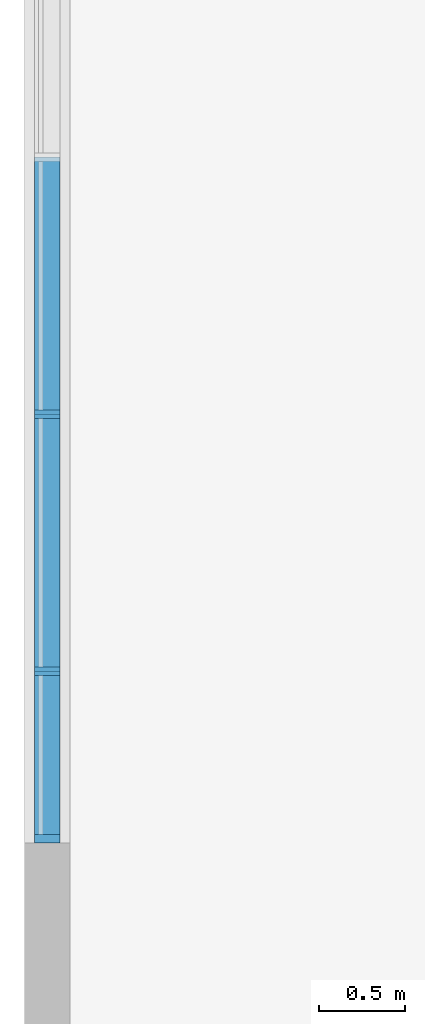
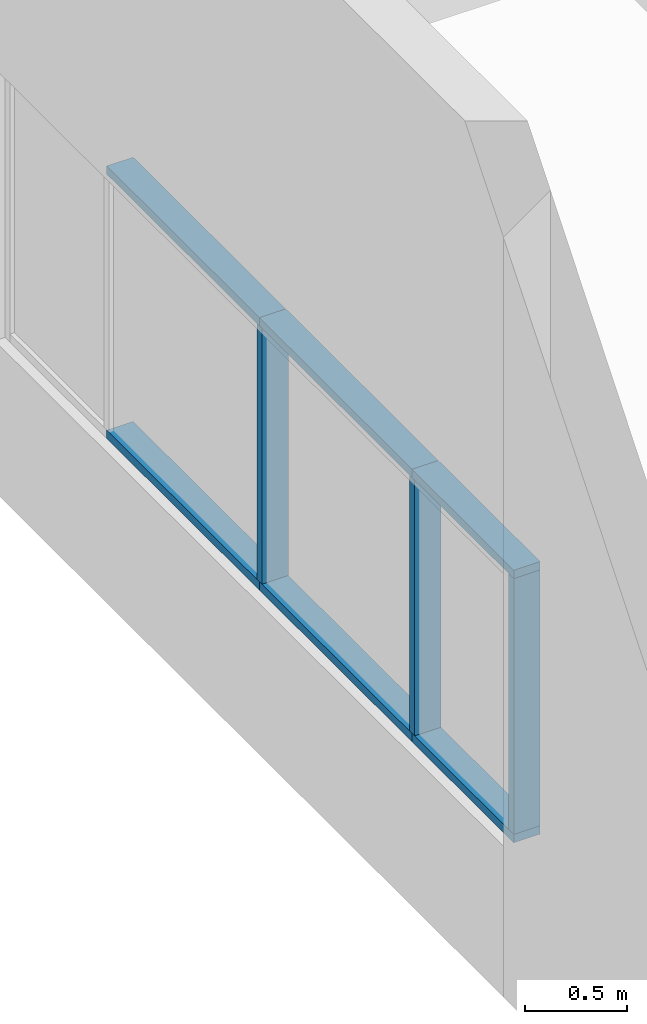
# One storey, part 2 of 87: 9 members, 1 element without a shape of its own.
"""IFC2X3 building model written with IfcOpenShell, lengths in metres."""

from ifc_helpers import new_model, entity, si_unit, converted_unit, frame, origin, origin_2d_with_axis, place, context, project, spatial, rectangle, extrude, source, transform, mapped, material, type_object, type_shapes, element, aggregate, save


model = new_model("IFC2X3")

# Units and contexts
model_context = context("Model", 3, precision=1e-09, world=origin())
plan_context = context("Plan", 3, precision=1e-09, world=origin())
ifc_project = project(units=[si_unit("LENGTHUNIT", "METRE"), si_unit("AREAUNIT", "SQUARE_METRE"), si_unit("VOLUMEUNIT", "CUBIC_METRE"), converted_unit("PLANEANGLEUNIT", "DEGREE", entity("IfcRatioMeasure", 0.01745329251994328), si_unit("PLANEANGLEUNIT", "RADIAN"), dimensions=[0, 0, 0, 0, 0, 0, 0]), si_unit("TIMEUNIT", "SECOND")], contexts=[model_context, plan_context])

# Site, building, storey
site_placement = place(None, origin())
site = spatial("IfcSite", under=ifc_project, at=site_placement, Name="Default", CompositionType="ELEMENT")
building_placement = place(site_placement, origin())
building = spatial("IfcBuilding", under=site, at=building_placement, CompositionType="ELEMENT")
storey_placement = place(building_placement, origin())
storey = spatial("IfcBuildingStorey", under=building, at=storey_placement, Name="First Floor", CompositionType="ELEMENT", Elevation=-3.531500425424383e-13)

# Curtain wall, members
curtain_wall_placement = place(storey_placement, origin())
curtain_wall = element("IfcCurtainWall", 1, at=curtain_wall_placement, inside=storey, Name="Curtain Wall:Storefront", ObjectType="Curtain Wall:Storefront")
ifc_material = material(Name="Metal - Aluminium")
member_type_1 = type_object("IfcMemberType", Name="50 x 150mm", PredefinedType="MULLION")
shared_shape_1 = source(origin(), model_context, "Body", "SweptSolid", [
    extrude(rectangle(XDim=0.05, YDim=0.15, at=origin_2d_with_axis()), frame((-0.025, 0.0, -1.0), z_axis=(0.0, 0.0, 1.0), x_axis=(-1.0, 0.0, 0.0)), (0.0, 0.0, 1.0), 1.0),
])
type_shapes(member_type_1, [shared_shape_1])
member_1_placement = place(storey_placement, frame((-52.14650000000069, 3.759486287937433, 2.54), z_axis=(0.0, 1.0, 0.0), x_axis=(0.0, 0.0, 1.0)))
member_1 = element("IfcMember", 2, at=member_1_placement, type_object=member_type_1, material=ifc_material, Name="Rectangular Mullion:50 x 150mm:50 x 150mm", ObjectType="50 x 150mm", context=model_context, shape_type="MappedRepresentation", body=[
    mapped(shared_shape_1, transform((0.0, 0.0, 0.0), scale=1.0)),
])
member_type_2 = type_object("IfcMemberType", Name="50 x 150mm", PredefinedType="MULLION")
shared_shape_2 = source(origin(), model_context, "Body", "SweptSolid", [
    extrude(rectangle(XDim=0.05, YDim=0.15, at=origin_2d_with_axis()), frame((-0.025, 0.0, -1.500256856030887), z_axis=(0.0, 0.0, 1.0), x_axis=(-1.0, 0.0, 0.0)), (0.0, 0.0, 1.0), 1.500256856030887),
])
type_shapes(member_type_2, [shared_shape_2])
member_2_placement = place(storey_placement, frame((-52.14650000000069, 5.259743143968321, 2.54), z_axis=(0.0, 1.0, 0.0), x_axis=(0.0, 0.0, 1.0)))
member_2 = element("IfcMember", 3, at=member_2_placement, type_object=member_type_2, material=ifc_material, Name="Rectangular Mullion:50 x 150mm:50 x 150mm", ObjectType="50 x 150mm", context=model_context, shape_type="MappedRepresentation", body=[
    mapped(shared_shape_2, transform((0.0, 0.0, 0.0), scale=1.0)),
])
member_3_placement = place(storey_placement, frame((-52.14650000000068, 6.759999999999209, 2.54), z_axis=(0.0, 1.0, 0.0), x_axis=(0.0, 0.0, 1.0)))
member_3 = element("IfcMember", 4, at=member_3_placement, type_object=member_type_2, material=ifc_material, Name="Rectangular Mullion:50 x 150mm:50 x 150mm", ObjectType="50 x 150mm", context=model_context, shape_type="MappedRepresentation", body=[
    mapped(shared_shape_2, transform((0.0, 0.0, 0.0), scale=1.0)),
])
member_type_3 = type_object("IfcMemberType", Name="50 x 150mm", PredefinedType="MULLION")
shared_shape_3 = source(origin(), model_context, "Body", "SweptSolid", [
    extrude(rectangle(XDim=0.05, YDim=0.15, at=origin_2d_with_axis()), frame((-0.025, 0.0, -1.0), z_axis=(0.0, 0.0, 1.0), x_axis=(-1.0, 0.0, 0.0)), (0.0, 0.0, 1.0), 1.0),
])
type_shapes(member_type_3, [shared_shape_3])
member_4_placement = place(storey_placement, frame((-52.14650000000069, 2.759486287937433, 0.905), z_axis=(0.0, -1.0, 0.0), x_axis=(0.0, 0.0, -1.0)))
member_4 = element("IfcMember", 5, at=member_4_placement, type_object=member_type_3, material=ifc_material, Name="Rectangular Mullion:50 x 150mm:50 x 150mm", ObjectType="50 x 150mm", context=model_context, shape_type="MappedRepresentation", body=[
    mapped(shared_shape_3, transform((0.0, 0.0, 0.0), scale=1.0)),
])
member_type_4 = type_object("IfcMemberType", Name="50 x 150mm", PredefinedType="MULLION")
shared_shape_4 = source(origin(), model_context, "Body", "SweptSolid", [
    extrude(rectangle(XDim=0.05, YDim=0.15, at=origin_2d_with_axis()), frame((-0.025, 0.0, -1.500256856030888), z_axis=(0.0, 0.0, 1.0), x_axis=(-1.0, 0.0, 0.0)), (0.0, 0.0, 1.0), 1.500256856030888),
])
type_shapes(member_type_4, [shared_shape_4])
member_5_placement = place(storey_placement, frame((-52.14650000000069, 3.759486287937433, 0.905), z_axis=(0.0, -1.0, 0.0), x_axis=(0.0, 0.0, -1.0)))
member_5 = element("IfcMember", 6, at=member_5_placement, type_object=member_type_4, material=ifc_material, Name="Rectangular Mullion:50 x 150mm:50 x 150mm", ObjectType="50 x 150mm", context=model_context, shape_type="MappedRepresentation", body=[
    mapped(shared_shape_4, transform((0.0, 0.0, 0.0), scale=1.0)),
])
member_6_placement = place(storey_placement, frame((-52.14650000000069, 5.259743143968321, 0.905), z_axis=(0.0, -1.0, 0.0), x_axis=(0.0, 0.0, -1.0)))
member_6 = element("IfcMember", 7, at=member_6_placement, type_object=member_type_4, material=ifc_material, Name="Rectangular Mullion:50 x 150mm:50 x 150mm", ObjectType="50 x 150mm", context=model_context, shape_type="MappedRepresentation", body=[
    mapped(shared_shape_4, transform((0.0, 0.0, 0.0), scale=1.0)),
])
member_type_5 = type_object("IfcMemberType", Name="50 x 150mm", PredefinedType="MULLION")
shared_shape_5 = source(origin(), model_context, "Body", "SweptSolid", [
    extrude(rectangle(XDim=0.05, YDim=0.15, at=origin_2d_with_axis()), frame((-0.025, 0.0, -1.535), z_axis=(0.0, 0.0, 1.0), x_axis=(-1.0, 0.0, 0.0)), (0.0, 0.0, 1.0), 1.535),
])
type_shapes(member_type_5, [shared_shape_5])
member_7_placement = place(storey_placement, frame((-52.14650000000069, 2.759486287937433, 2.49), z_axis=(0.0, 0.0, 1.0), x_axis=(0.0, -1.0, 0.0)))
member_7 = element("IfcMember", 8, at=member_7_placement, type_object=member_type_5, material=ifc_material, Name="Rectangular Mullion:50 x 150mm:50 x 150mm", ObjectType="50 x 150mm", context=model_context, shape_type="MappedRepresentation", body=[
    mapped(shared_shape_5, transform((0.0, 0.0, 0.0), scale=1.0)),
])
member_type_6 = type_object("IfcMemberType", Name="50 x 150mm", PredefinedType="MULLION")
shared_shape_6 = source(origin(), model_context, "Body", "SweptSolid", [
    extrude(rectangle(XDim=0.05, YDim=0.15, at=origin_2d_with_axis()), frame((0.0, 0.0, -1.535), z_axis=(0.0, 0.0, 1.0), x_axis=(-1.0, 0.0, 0.0)), (0.0, 0.0, 1.0), 1.535),
])
type_shapes(member_type_6, [shared_shape_6])
member_8_placement = place(storey_placement, frame((-52.14650000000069, 5.259743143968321, 0.9550000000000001), z_axis=(0.0, 0.0, -1.0), x_axis=(0.0, 1.0, 0.0)))
member_8 = element("IfcMember", 9, at=member_8_placement, type_object=member_type_6, material=ifc_material, Name="Rectangular Mullion:50 x 150mm:50 x 150mm", ObjectType="50 x 150mm", context=model_context, shape_type="MappedRepresentation", body=[
    mapped(shared_shape_6, transform((0.0, 0.0, 0.0), scale=1.0)),
])
member_9_placement = place(storey_placement, frame((-52.14650000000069, 3.759486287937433, 0.9550000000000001), z_axis=(0.0, 0.0, -1.0), x_axis=(0.0, 1.0, 0.0)))
member_9 = element("IfcMember", 10, at=member_9_placement, type_object=member_type_6, material=ifc_material, Name="Rectangular Mullion:50 x 150mm:50 x 150mm", ObjectType="50 x 150mm", context=model_context, shape_type="MappedRepresentation", body=[
    mapped(shared_shape_6, transform((0.0, 0.0, 0.0), scale=1.0)),
])
aggregate(curtain_wall, [member_1, member_2, member_3, member_4, member_5, member_6, member_7, member_8, member_9])

save(model, "model.ifc")
